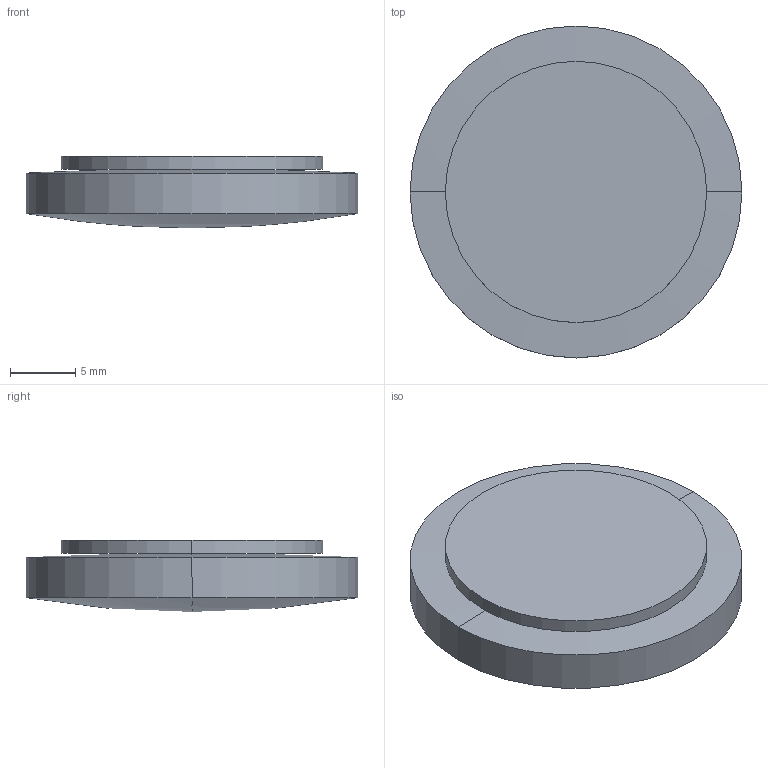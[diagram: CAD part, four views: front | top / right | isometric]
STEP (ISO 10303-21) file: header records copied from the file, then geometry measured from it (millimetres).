
FILE_DESCRIPTION(('STEP AP214'),'1');
FILE_NAME('LLR-25140.STEP','2020-03-09T17:41:57',(' '),(' '),'Spatial InterOp 3D',' ',' ');
FILE_SCHEMA(('AUTOMOTIVE_DESIGN { 1 0 10303 214 1 1 1 1 }'));
Length unit declared in the file: millimetre
Products named in the file (1): 1
Bounding box: 25.4 x 25.4 x 5.5 mm (x, y, z)
Volume: 2241.2 mm3; surface area: 1956.2 mm2
Topology: 2 solids, 2 shells, 10 faces, 20 edges, 10 vertices
Faces by surface type: sphere 4, cylinder 4, plane 2
Entity records: 255 total; most frequent: DIRECTION 52, CARTESIAN_POINT 38, ORIENTED_EDGE 32, AXIS2_PLACEMENT_3D 24, EDGE_CURVE 16, CIRCLE 12, ADVANCED_FACE 10, FACE_OUTER_BOUND 10
